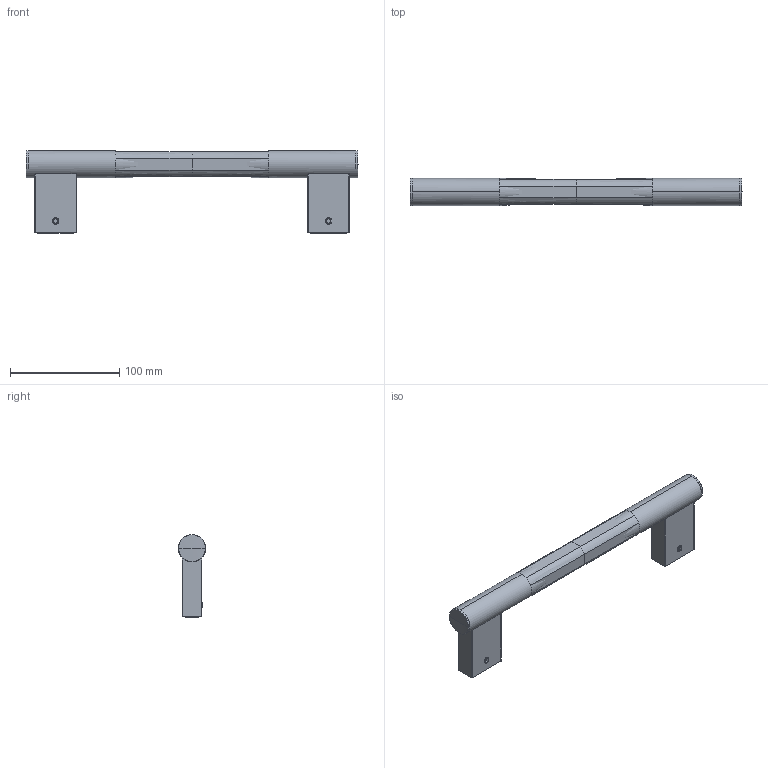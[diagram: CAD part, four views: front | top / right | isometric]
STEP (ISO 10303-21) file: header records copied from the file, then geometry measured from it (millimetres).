
FILE_DESCRIPTION (( 'STEP AP203' ), '1' );
FILE_NAME ('28056A-00-00.STEP', '2022-07-07T06:52:58', ( 'Windows User' ), ( 'P R C' ), 'SwSTEP 2.0', 'SolidWorks 2015', '' );
FILE_SCHEMA (( 'CONFIG_CONTROL_DESIGN' ));
Length unit declared in the file: millimetre
Products named in the file (1): 28056A-00-00
Bounding box: 304.19 x 25 x 76 mm (x, y, z)
Surface area: 55025 mm2 (no closed solid volume)
Topology: 0 solids, 11 shells, 219 faces, 715 edges, 502 vertices
Faces by surface type: plane 101, cylinder 86, bspline 16, cone 8, sphere 4, torus 4
Entity records: 9190 total; most frequent: CARTESIAN_POINT 2999, DIRECTION 1285, ORIENTED_EDGE 1146, EDGE_CURVE 715, VERTEX_POINT 502, AXIS2_PLACEMENT_3D 438, VECTOR 409, LINE 409
